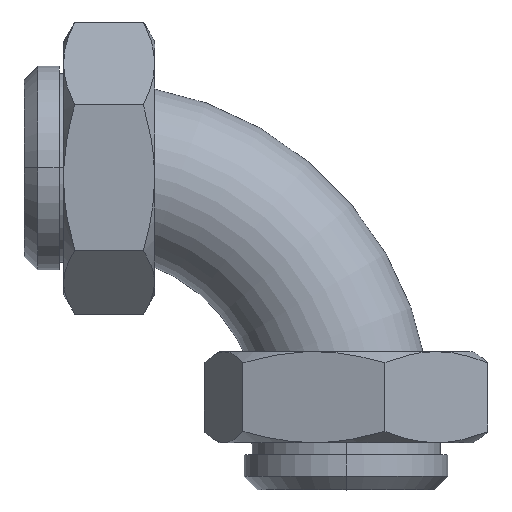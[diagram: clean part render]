
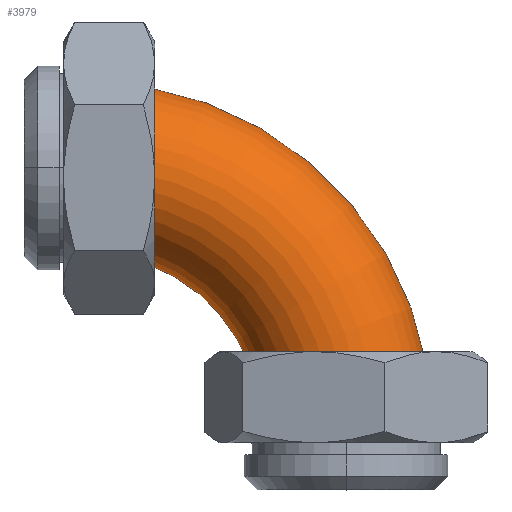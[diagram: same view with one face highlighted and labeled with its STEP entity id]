
A CAD part, top view. The second image highlights one B-rep face of the part: STEP entity #3979.
In plain terms, the highlighted toroidal (fillet/blend) face has major radius 76.2 mm and minor radius 25.4 mm.
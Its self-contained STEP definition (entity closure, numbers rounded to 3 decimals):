
#50 = DIRECTION ( 'NONE',  ( 0., 0., -1. ) ) ;
#190 = VERTEX_POINT ( 'NONE', #4868 ) ;
#380 = ORIENTED_EDGE ( 'NONE', *, *, #1956, .F. ) ;
#529 = VERTEX_POINT ( 'NONE', #5672 ) ;
#569 = AXIS2_PLACEMENT_3D ( 'NONE', #625, #2475, #2390 ) ;
#582 = VERTEX_POINT ( 'NONE', #3050 ) ;
#625 = CARTESIAN_POINT ( 'NONE',  ( 76.2, 0., 0. ) ) ;
#864 = CARTESIAN_POINT ( 'NONE',  ( 0., 0., 0. ) ) ;
#981 = DIRECTION ( 'NONE',  ( -1., 0., 0. ) ) ;
#998 = DIRECTION ( 'NONE',  ( -1., 0., 0. ) ) ;
#1039 = EDGE_CURVE ( 'NONE', #4517, #582, #4566, .T. ) ;
#1373 = DIRECTION ( 'NONE',  ( 0., 0., 1. ) ) ;
#1454 = CIRCLE ( 'NONE', #2742, 101.6 ) ;
#1717 = EDGE_LOOP ( 'NONE', ( #3087, #380, #3521, #5437 ) ) ;
#1733 = EDGE_CURVE ( 'NONE', #190, #4517, #1899, .T. ) ;
#1842 = CARTESIAN_POINT ( 'NONE',  ( 0., 0., 0. ) ) ;
#1899 = CIRCLE ( 'NONE', #4864, 50.8 ) ;
#1956 = EDGE_CURVE ( 'NONE', #190, #529, #5151, .T. ) ;
#2144 = DIRECTION ( 'NONE',  ( -1., 0., 0. ) ) ;
#2363 = AXIS2_PLACEMENT_3D ( 'NONE', #3671, #998, #1373 ) ;
#2390 = DIRECTION ( 'NONE',  ( 0., 0., 1. ) ) ;
#2475 = DIRECTION ( 'NONE',  ( 0., 1., 0. ) ) ;
#2742 = AXIS2_PLACEMENT_3D ( 'NONE', #1842, #3122, #981 ) ;
#2759 = AXIS2_PLACEMENT_3D ( 'NONE', #3901, #5203, #2144 ) ;
#2889 = EDGE_CURVE ( 'NONE', #529, #582, #1454, .T. ) ;
#3050 = CARTESIAN_POINT ( 'NONE',  ( 101.6, 0., 0. ) ) ;
#3087 = ORIENTED_EDGE ( 'NONE', *, *, #2889, .F. ) ;
#3122 = DIRECTION ( 'NONE',  ( 0., 0., -1. ) ) ;
#3521 = ORIENTED_EDGE ( 'NONE', *, *, #1733, .T. ) ;
#3671 = CARTESIAN_POINT ( 'NONE',  ( 0., 76.2, 0. ) ) ;
#3797 = TOROIDAL_SURFACE ( 'NONE', #2759, 76.2, 25.4 ) ;
#3901 = CARTESIAN_POINT ( 'NONE',  ( 0., 0., 0. ) ) ;
#3979 = ADVANCED_FACE ( 'NONE', ( #4334 ), #3797, .T. ) ;
#4038 = DIRECTION ( 'NONE',  ( -1., 0., 0. ) ) ;
#4334 = FACE_OUTER_BOUND ( 'NONE', #1717, .T. ) ;
#4517 = VERTEX_POINT ( 'NONE', #4940 ) ;
#4566 = CIRCLE ( 'NONE', #569, 25.4 ) ;
#4864 = AXIS2_PLACEMENT_3D ( 'NONE', #864, #50, #4038 ) ;
#4868 = CARTESIAN_POINT ( 'NONE',  ( 0., 50.8, 0. ) ) ;
#4940 = CARTESIAN_POINT ( 'NONE',  ( 50.8, 0., 0. ) ) ;
#5151 = CIRCLE ( 'NONE', #2363, 25.4 ) ;
#5203 = DIRECTION ( 'NONE',  ( 0., 0., -1. ) ) ;
#5437 = ORIENTED_EDGE ( 'NONE', *, *, #1039, .T. ) ;
#5672 = CARTESIAN_POINT ( 'NONE',  ( 0., 101.6, 0. ) ) ;
